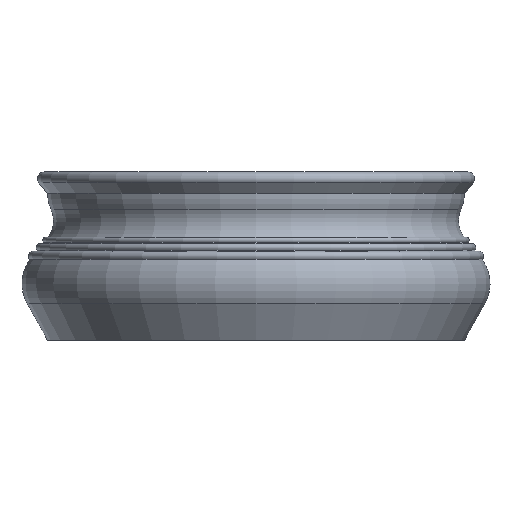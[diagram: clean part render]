
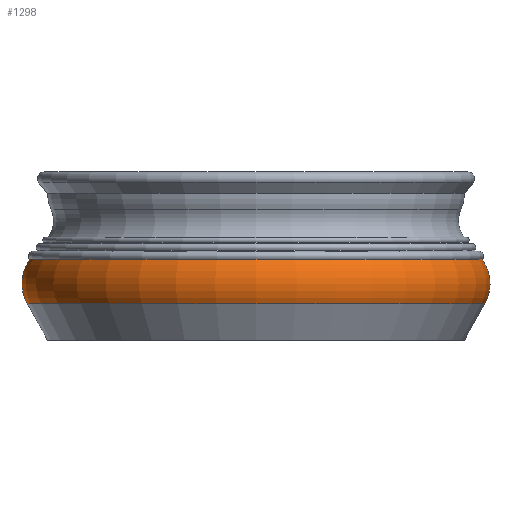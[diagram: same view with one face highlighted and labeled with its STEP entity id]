
A CAD part, front view. The second image highlights one B-rep face of the part: STEP entity #1298.
In plain terms, the highlighted toroidal (fillet/blend) face has major radius 143.45 mm and minor radius 30.55 mm.
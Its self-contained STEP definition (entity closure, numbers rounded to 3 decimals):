
#22=TOROIDAL_SURFACE('',#1475,143.45,30.55);
#164=FACE_OUTER_BOUND('',#280,.T.);
#280=EDGE_LOOP('',(#1187,#1188,#1189,#1190));
#517=CIRCLE('',#1439,170.128);
#539=CIRCLE('',#1476,168.152);
#540=CIRCLE('',#1477,30.55);
#642=VERTEX_POINT('',#2198);
#657=VERTEX_POINT('',#2257);
#805=EDGE_CURVE('',#642,#642,#517,.T.);
#834=EDGE_CURVE('',#657,#657,#539,.T.);
#835=EDGE_CURVE('',#657,#642,#540,.T.);
#1187=ORIENTED_EDGE('',*,*,#834,.F.);
#1188=ORIENTED_EDGE('',*,*,#835,.T.);
#1189=ORIENTED_EDGE('',*,*,#805,.T.);
#1190=ORIENTED_EDGE('',*,*,#835,.F.);
#1298=ADVANCED_FACE('',(#164),#22,.T.);
#1439=AXIS2_PLACEMENT_3D('',#2199,#1805,#1806);
#1475=AXIS2_PLACEMENT_3D('',#2256,#1884,#1885);
#1476=AXIS2_PLACEMENT_3D('',#2258,#1886,#1887);
#1477=AXIS2_PLACEMENT_3D('',#2259,#1888,#1889);
#1805=DIRECTION('center_axis',(0.,0.,1.));
#1806=DIRECTION('ref_axis',(1.,0.,0.));
#1884=DIRECTION('center_axis',(0.,0.,1.));
#1885=DIRECTION('ref_axis',(1.,0.,0.));
#1886=DIRECTION('center_axis',(0.,0.,1.));
#1887=DIRECTION('ref_axis',(1.,0.,0.));
#1888=DIRECTION('center_axis',(0.,-1.,0.));
#1889=DIRECTION('ref_axis',(-1.,0.,0.));
#2198=CARTESIAN_POINT('',(-170.128,0.,27.115));
#2199=CARTESIAN_POINT('Origin',(0.,0.,27.115));
#2256=CARTESIAN_POINT('Origin',(0.,0.,42.));
#2257=CARTESIAN_POINT('',(-168.152,0.,59.976));
#2258=CARTESIAN_POINT('Origin',(0.,0.,59.976));
#2259=CARTESIAN_POINT('Origin',(-143.45,0.,
42.));
